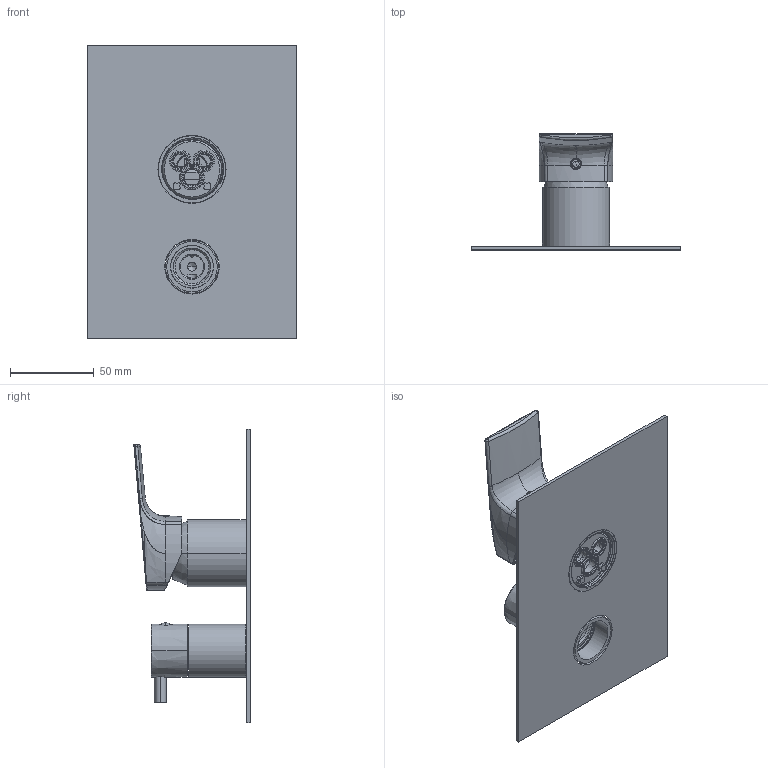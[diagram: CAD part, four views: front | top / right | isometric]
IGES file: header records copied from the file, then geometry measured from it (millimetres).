
Start section:  PTC IGES file: 3d_sw0002.igs
Global section: file name: 3d_sw0002.igs; native system: Creo Parametric by PTC Inc.; preprocessor: 2022014; author: volponeff; organization: Unknown; date: 20241008.093651; units: millimetre
Bounding box: 125 x 69.24 x 175 mm (x, y, z)
Surface area: 105340.5 mm2 (no closed solid volume)
Topology: 0 solids, 0 shells, 1073 faces, 6106 edges, 6080 vertices
Faces by surface type: revolution 629, bspline 444
